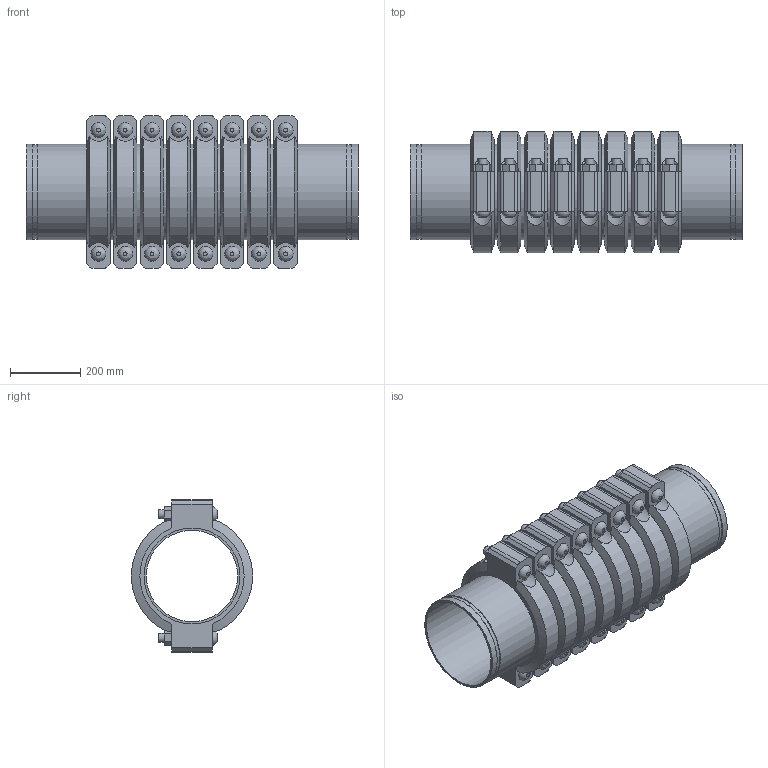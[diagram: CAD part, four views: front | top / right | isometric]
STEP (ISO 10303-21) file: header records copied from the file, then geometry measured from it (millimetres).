
FILE_DESCRIPTION(/* description */ ('VIC SS EXPANSION JOINT 8 COUPLINGS EXPANDED STYLE 155P (OGS) (POTABLE WATER) ','CAx-IF Rec.Pracs.---Representation and Presentation of Product Manufacturing Information (PMI)---4.0---2014-10-13'),/* implementation_level */ '2;1');
FILE_NAME(/* name */ 'C:\Users\kkamble\AppData\Roaming\Autodesk\ApplicationPlugins\Victaulic.Temp\A286\Victaulic_SS_Expansion Joint_Expanded_8 Couplings_Style 155P (OGS)-Potable Water_8 Coup_Expd_10 (250).stp',/* time_stamp */ '2021-07-16T16:56:52+05:00',/* author */ ('kkamble'),/* organization */ ('Victaulic'),/* preprocessor_version */ 'ST-DEVELOPER v17.2',/* originating_system */ 'Autodesk Inventor 2019',/* authorisation */ '');
FILE_SCHEMA (('AP242_MANAGED_MODEL_BASED_3D_ENGINEERING_MIM_LF { 1 0 10303 442 1 1 4 }'));
Length unit declared in the file: inch
Products named in the file (4): 155P-10.0; Nipple-10.0; Nipple-10.0_1; 077-10.0
Assembly tree (17 placements, depth 2):
  155P-10.0
    Nipple-10.0  x2
    Nipple-10.0_1  x7
    077-10.0  x8
Bounding box: 946.15 x 344.9 x 435.1 mm (x, y, z)
Volume: 27903035 mm3; surface area: 3948284 mm2
Topology: 17 solids, 33 shells, 596 faces, 1431 edges, 1002 vertices
Faces by surface type: plane 342, cylinder 206, cone 32, bspline 16
Full cylindrical faces by diameter (mm): 25.4 x32, 27.432 x16, 260.35 x9, 264.16 x8, 268.275 x18, 273.05 x43
Entity records: 3126 total; most frequent: CARTESIAN_POINT 683, DIRECTION 489, ORIENTED_EDGE 410, EDGE_CURVE 205, AXIS2_PLACEMENT_3D 200, VERTEX_POINT 146, EDGE_LOOP 111, CIRCLE 96
